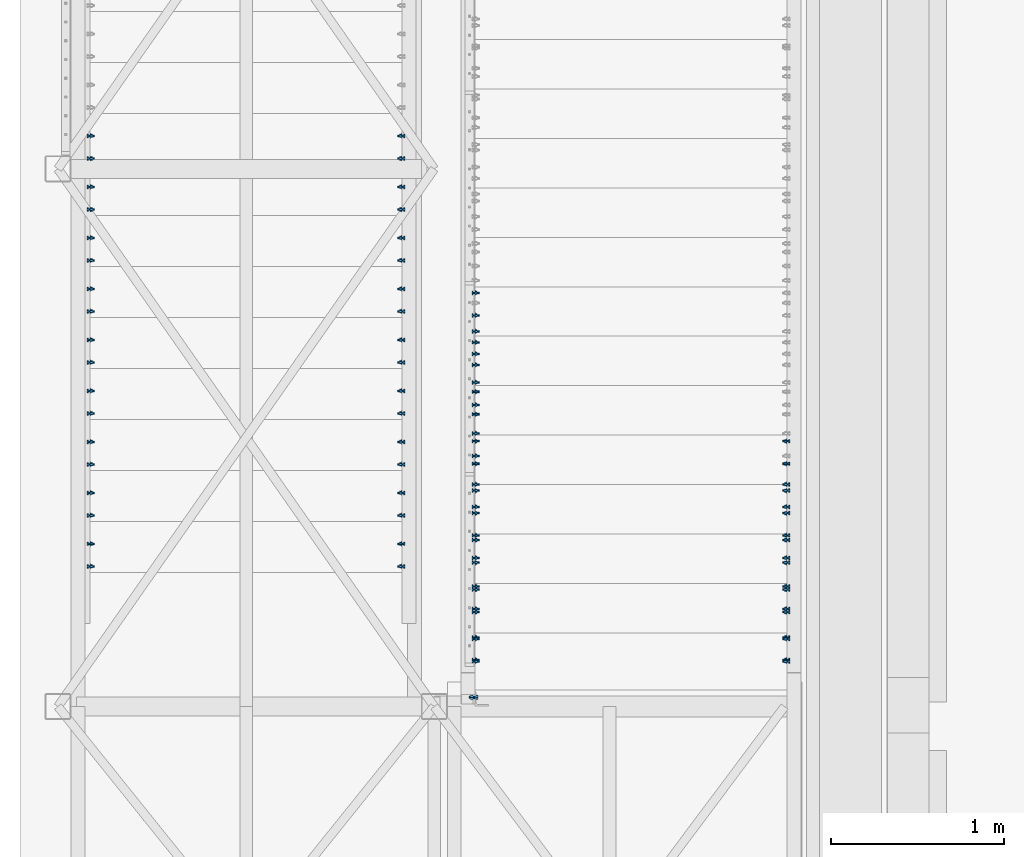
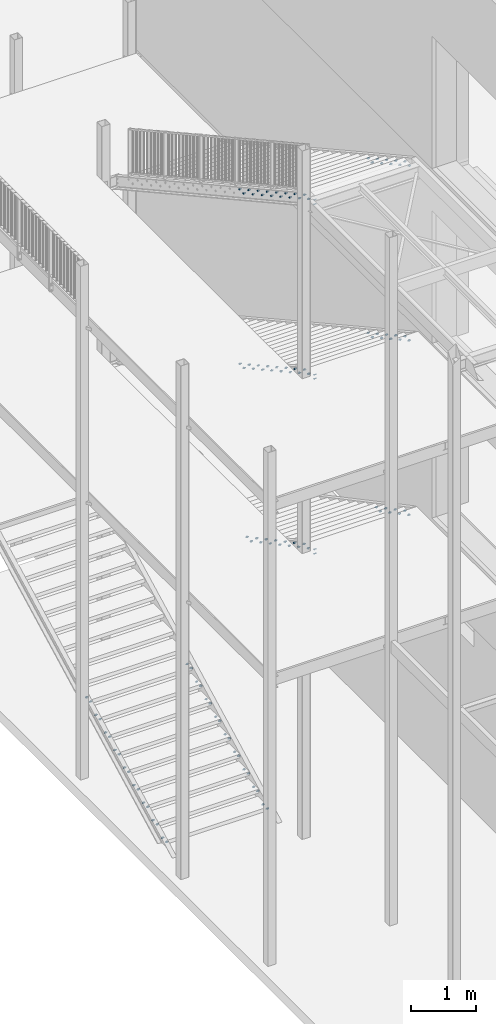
# One storey, part 69 of 78: 58 mechanical fasteners, 8 elements without a shape of their own.
"""IFC2X3 building model written with IfcOpenShell, lengths in millimetres."""

from ifc_helpers import new_model, si_unit, frame, origin_with_axes, origin_2d_with_axis, place, context, subcontext, project, spatial, polyline, circle, outline, extrude, source, transform, mapped, material, type_object, element, aggregate, save


model = new_model("IFC2X3")

# Units and contexts
model_context = context("Model", 3, precision=1e-05, world=origin_with_axes())
body_context = subcontext(model_context, "Body", "Model", "MODEL_VIEW")
ifc_project = project(units=[si_unit("LENGTHUNIT", "METRE", prefix="MILLI"), si_unit("AREAUNIT", "SQUARE_METRE"), si_unit("VOLUMEUNIT", "CUBIC_METRE"), si_unit("MASSUNIT", "GRAM", prefix="KILO"), si_unit("TIMEUNIT", "SECOND"), si_unit("PLANEANGLEUNIT", "RADIAN"), si_unit("SOLIDANGLEUNIT", "STERADIAN"), si_unit("THERMODYNAMICTEMPERATUREUNIT", "DEGREE_CELSIUS"), si_unit("LUMINOUSINTENSITYUNIT", "LUMEN")], contexts=[model_context])

# Site, building, storey
site_placement = place(None, origin_with_axes())
site = spatial("IfcSite", under=ifc_project, at=site_placement, Name="Site", CompositionType="ELEMENT")
building_placement = place(site_placement, origin_with_axes())
building = spatial("IfcBuilding", under=site, at=building_placement, Name="Undefined", CompositionType="ELEMENT")
storey_placement = place(building_placement, origin_with_axes())
storey = spatial("IfcBuildingStorey", under=building, at=storey_placement, Name="Undefined", CompositionType="ELEMENT", Elevation=0.0)

# Assembly, mechanical fastener
assembly_1_placement = place(storey_placement, origin_with_axes())
assembly_1 = element("IfcElementAssembly", 1, at=assembly_1_placement, inside=storey, AssemblyPlace="NOTDEFINED", PredefinedType="RIGID_FRAME")
ifc_material_1 = material(Name="8.8")
mechanical_fastener_type = type_object("IfcMechanicalFastenerType", Name="Bolt assembly")
shared_shape_1 = source(origin_with_axes(), body_context, "Body", "SweptSolid", [
    extrude(circle(Radius=9.0, at=origin_2d_with_axis()), frame((0.0, -7.89999999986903, 0.0), z_axis=(0.0, 1.0, 0.0), x_axis=(1.0, 0.0, 0.0)), (0.0, 0.0, 1.0), 8.0),
    extrude(circle(Radius=9.0, at=origin_2d_with_axis()), frame((0.0, -0.0999999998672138, 0.0), z_axis=(0.0, 1.0, 0.0), x_axis=(1.0, 0.0, 0.0)), (0.0, 0.0, 1.0), 9.1),
    extrude(outline(polyline([(13.85640646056, 0.0), (6.92820323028, 12.0000000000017), (-6.92820323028, 12.0000000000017), (-13.85640646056, 0.0), (-6.92820323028, -12.0000000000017), (6.92820323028, -12.0000000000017), (13.85640646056, 0.0)])), frame((0.0, -17.999999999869, 0.0), z_axis=(0.0, 1.0, 0.0), x_axis=(1.0, 0.0, 0.0)), (0.0, 0.0, 1.0), 10.0),
    extrude(circle(Radius=8.0, at=origin_2d_with_axis()), frame((0.0, -7.99999999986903, 0.0), z_axis=(0.0, 1.0, 0.0), x_axis=(1.0, 0.0, 0.0)), (0.0, 0.0, 1.0), 40.0),
    extrude(outline(polyline([(13.85640646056, 0.0), (6.92820323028, 12.0000000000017), (-6.92820323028, 12.0000000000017), (-13.85640646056, 0.0), (-6.92820323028, -12.0000000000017), (6.92820323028, -12.0000000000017), (13.85640646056, 0.0)])), frame((0.0, 9.0, 0.0), z_axis=(0.0, 1.0, 0.0), x_axis=(1.0, 0.0, 0.0)), (0.0, 0.0, 1.0), 14.8),
])
mechanical_fastener_1_placement = place(assembly_1_placement, frame((-32982.8600000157, 3911.0999986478, 153300.040107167), z_axis=(0.0, 1.0, 0.0), x_axis=(0.0, 0.0, -1.0)))
mechanical_fastener_1 = element("IfcMechanicalFastener", 2, at=mechanical_fastener_1_placement, type_object=mechanical_fastener_type, material=ifc_material_1, Name="Bolt assembly", NominalDiameter=16.0, NominalLength=40.0, context=body_context, shape_type="MappedRepresentation", body=[
    mapped(shared_shape_1, transform((0.0, 0.0, 50.0))),
    mapped(shared_shape_1, transform((80.0, 0.0, 50.0))),
])

assembly_2_placement = place(storey_placement, origin_with_axes())
assembly_2 = element("IfcElementAssembly", 3, at=assembly_2_placement, inside=storey, AssemblyPlace="NOTDEFINED", PredefinedType="RIGID_FRAME")
mechanical_fastener_2_placement = place(assembly_2_placement, frame((-32982.8600000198, 3911.0999999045, 156600.040000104), z_axis=(0.0, 1.0, 0.0), x_axis=(0.0, 0.0, -1.0)))
mechanical_fastener_2 = element("IfcMechanicalFastener", 4, at=mechanical_fastener_2_placement, type_object=mechanical_fastener_type, material=ifc_material_1, Name="Bolt assembly", NominalDiameter=16.0, NominalLength=40.0, context=body_context, shape_type="MappedRepresentation", body=[
    mapped(shared_shape_1, transform((0.0, 0.0, 50.0))),
    mapped(shared_shape_1, transform((80.0, 0.0, 50.0))),
])

assembly_3_placement = place(storey_placement, origin_with_axes())
assembly_3 = element("IfcElementAssembly", 5, at=assembly_3_placement, inside=storey, AssemblyPlace="NOTDEFINED", PredefinedType="RIGID_FRAME")
mechanical_fastener_3_placement = place(assembly_3_placement, frame((-32982.8600000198, 3911.09999990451, 159900.040000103), z_axis=(0.0, 1.0, 0.0), x_axis=(0.0, 0.0, -1.0)))
mechanical_fastener_3 = element("IfcMechanicalFastener", 6, at=mechanical_fastener_3_placement, type_object=mechanical_fastener_type, material=ifc_material_1, Name="Bolt assembly", NominalDiameter=16.0, NominalLength=40.0, context=body_context, shape_type="MappedRepresentation", body=[
    mapped(shared_shape_1, transform((0.0, 0.0, 50.0))),
    mapped(shared_shape_1, transform((80.0, 0.0, 50.0))),
])

assembly_4_placement = place(storey_placement, origin_with_axes())
assembly_4 = element("IfcElementAssembly", 7, at=assembly_4_placement, inside=storey, AssemblyPlace="NOTDEFINED", PredefinedType="RIGID_FRAME")
ifc_material_2 = material(Name="6.8")
shared_shape_2 = source(origin_with_axes(), body_context, "Body", "SweptSolid", [
    extrude(circle(Radius=6.0, at=origin_2d_with_axis()), frame((0.0, -9.00000002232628, 0.0), z_axis=(0.0, 1.0, 0.0), x_axis=(1.0, 0.0, 0.0)), (0.0, 0.0, 1.0), 9.1),
    extrude(outline(polyline([(10.96965511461, 0.0), (5.484827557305, 9.50000000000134), (-5.484827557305, 9.50000000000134), (-10.96965511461, 0.0), (-5.484827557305, -9.50000000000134), (5.484827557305, -9.50000000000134), (10.96965511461, 0.0)])), frame((0.0, -17.0000000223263, 0.0), z_axis=(0.0, 1.0, 0.0), x_axis=(1.0, 0.0, 0.0)), (0.0, 0.0, 1.0), 8.0),
    extrude(circle(Radius=6.0, at=origin_2d_with_axis()), frame((0.0, -9.00000002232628, 0.0), z_axis=(0.0, 1.0, 0.0), x_axis=(1.0, 0.0, 0.0)), (0.0, 0.0, 1.0), 35.0),
    extrude(circle(Radius=15.5, at=origin_2d_with_axis()), frame((0.0, 0.0, 0.0), z_axis=(0.0, 1.0, 0.0), x_axis=(1.0, 0.0, 0.0)), (0.0, 0.0, 1.0), 3.2),
    extrude(outline(polyline([(10.39230484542, 0.0), (5.19615242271, 9.00000000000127), (-5.19615242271, 9.00000000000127), (-10.39230484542, 0.0), (-5.19615242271, -9.00000000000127), (5.19615242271, -9.00000000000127), (10.39230484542, 0.0)])), frame((0.0, 3.20000004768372, 0.0), z_axis=(0.0, 1.0, 0.0), x_axis=(1.0, 0.0, 0.0)), (0.0, 0.0, 1.0), 10.8),
])
mechanical_fastener_4_placement = place(assembly_4_placement, frame((-31182.859999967, 4297.99999995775, 156487.540000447), z_axis=(0.0, 0.0, -1.0), x_axis=(0.0, -1.0, 0.0)))
mechanical_fastener_4 = element("IfcMechanicalFastener", 8, at=mechanical_fastener_4_placement, type_object=mechanical_fastener_type, material=ifc_material_2, Name="Bolt assembly", NominalDiameter=12.0, NominalLength=35.0, context=body_context, shape_type="MappedRepresentation", body=[
    mapped(shared_shape_2, transform((0.0, 0.0, 0.0))),
    mapped(shared_shape_2, transform((130.0, 0.0, 0.0))),
])

# Mechanical fastener
mechanical_fastener_5_placement = place(assembly_2_placement, frame((-32982.859999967, 4297.99999995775, 156487.540000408), z_axis=(0.0, 0.0, 1.0), x_axis=(0.0, -1.0, 0.0)))
mechanical_fastener_5 = element("IfcMechanicalFastener", 9, at=mechanical_fastener_5_placement, type_object=mechanical_fastener_type, material=ifc_material_2, Name="Bolt assembly", NominalDiameter=12.0, NominalLength=35.0, context=body_context, shape_type="MappedRepresentation", body=[
    mapped(shared_shape_2, transform((0.0, 0.0, 0.0))),
    mapped(shared_shape_2, transform((130.0, 0.0, 0.0))),
])

mechanical_fastener_6_placement = place(assembly_4_placement, frame((-31182.8599999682, 4582.99999995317, 156330.040000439), z_axis=(0.0, 0.0, -1.0), x_axis=(0.0, -1.0, 0.0)))
mechanical_fastener_6 = element("IfcMechanicalFastener", 10, at=mechanical_fastener_6_placement, type_object=mechanical_fastener_type, material=ifc_material_2, Name="Bolt assembly", NominalDiameter=12.0, NominalLength=35.0, context=body_context, shape_type="MappedRepresentation", body=[
    mapped(shared_shape_2, transform((0.0, 0.0, 0.0))),
    mapped(shared_shape_2, transform((130.0, 0.0, 0.0))),
])

mechanical_fastener_7_placement = place(assembly_2_placement, frame((-32982.8599999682, 4582.99999995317, 156330.0400004), z_axis=(0.0, 0.0, 1.0), x_axis=(0.0, -1.0, 0.0)))
mechanical_fastener_7 = element("IfcMechanicalFastener", 11, at=mechanical_fastener_7_placement, type_object=mechanical_fastener_type, material=ifc_material_2, Name="Bolt assembly", NominalDiameter=12.0, NominalLength=35.0, context=body_context, shape_type="MappedRepresentation", body=[
    mapped(shared_shape_2, transform((0.0, 0.0, 0.0))),
    mapped(shared_shape_2, transform((130.0, 0.0, 0.0))),
])

mechanical_fastener_8_placement = place(assembly_4_placement, frame((-31182.8599999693, 4867.99999994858, 156172.540000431), z_axis=(0.0, 0.0, -1.0), x_axis=(0.0, -1.0, 0.0)))
mechanical_fastener_8 = element("IfcMechanicalFastener", 12, at=mechanical_fastener_8_placement, type_object=mechanical_fastener_type, material=ifc_material_2, Name="Bolt assembly", NominalDiameter=12.0, NominalLength=35.0, context=body_context, shape_type="MappedRepresentation", body=[
    mapped(shared_shape_2, transform((0.0, 0.0, 0.0))),
    mapped(shared_shape_2, transform((130.0, 0.0, 0.0))),
])

mechanical_fastener_9_placement = place(assembly_2_placement, frame((-32982.8599999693, 4867.99999994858, 156172.540000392), z_axis=(0.0, 0.0, 1.0), x_axis=(0.0, -1.0, 0.0)))
mechanical_fastener_9 = element("IfcMechanicalFastener", 13, at=mechanical_fastener_9_placement, type_object=mechanical_fastener_type, material=ifc_material_2, Name="Bolt assembly", NominalDiameter=12.0, NominalLength=35.0, context=body_context, shape_type="MappedRepresentation", body=[
    mapped(shared_shape_2, transform((0.0, 0.0, 0.0))),
    mapped(shared_shape_2, transform((130.0, 0.0, 0.0))),
])

mechanical_fastener_10_placement = place(assembly_4_placement, frame((-31182.8599999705, 5152.999999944, 156015.040000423), z_axis=(0.0, 0.0, -1.0), x_axis=(0.0, -1.0, 0.0)))
mechanical_fastener_10 = element("IfcMechanicalFastener", 14, at=mechanical_fastener_10_placement, type_object=mechanical_fastener_type, material=ifc_material_2, Name="Bolt assembly", NominalDiameter=12.0, NominalLength=35.0, context=body_context, shape_type="MappedRepresentation", body=[
    mapped(shared_shape_2, transform((0.0, 0.0, 0.0))),
    mapped(shared_shape_2, transform((130.0, 0.0, 0.0))),
])

mechanical_fastener_11_placement = place(assembly_2_placement, frame((-32982.8599999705, 5152.999999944, 156015.040000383), z_axis=(0.0, 0.0, 1.0), x_axis=(0.0, -1.0, 0.0)))
mechanical_fastener_11 = element("IfcMechanicalFastener", 15, at=mechanical_fastener_11_placement, type_object=mechanical_fastener_type, material=ifc_material_2, Name="Bolt assembly", NominalDiameter=12.0, NominalLength=35.0, context=body_context, shape_type="MappedRepresentation", body=[
    mapped(shared_shape_2, transform((0.0, 0.0, 0.0))),
    mapped(shared_shape_2, transform((130.0, 0.0, 0.0))),
])

mechanical_fastener_12_placement = place(assembly_4_placement, frame((-31182.8599999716, 5437.99999993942, 155857.540000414), z_axis=(0.0, 0.0, -1.0), x_axis=(0.0, -1.0, 0.0)))
mechanical_fastener_12 = element("IfcMechanicalFastener", 16, at=mechanical_fastener_12_placement, type_object=mechanical_fastener_type, material=ifc_material_2, Name="Bolt assembly", NominalDiameter=12.0, NominalLength=35.0, context=body_context, shape_type="MappedRepresentation", body=[
    mapped(shared_shape_2, transform((0.0, 0.0, 0.0))),
    mapped(shared_shape_2, transform((130.0, 0.0, 0.0))),
])

aggregate(assembly_4, [mechanical_fastener_4, mechanical_fastener_6, mechanical_fastener_8, mechanical_fastener_10, mechanical_fastener_12])

mechanical_fastener_13_placement = place(assembly_2_placement, frame((-32982.8599999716, 5437.99999993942, 155857.540000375), z_axis=(0.0, 0.0, 1.0), x_axis=(0.0, -1.0, 0.0)))
mechanical_fastener_13 = element("IfcMechanicalFastener", 17, at=mechanical_fastener_13_placement, type_object=mechanical_fastener_type, material=ifc_material_2, Name="Bolt assembly", NominalDiameter=12.0, NominalLength=35.0, context=body_context, shape_type="MappedRepresentation", body=[
    mapped(shared_shape_2, transform((0.0, 0.0, 0.0))),
    mapped(shared_shape_2, transform((130.0, 0.0, 0.0))),
])

mechanical_fastener_14_placement = place(assembly_2_placement, frame((-32982.8599999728, 5722.99999993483, 155700.040000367), z_axis=(0.0, 0.0, 1.0), x_axis=(0.0, -1.0, 0.0)))
mechanical_fastener_14 = element("IfcMechanicalFastener", 18, at=mechanical_fastener_14_placement, type_object=mechanical_fastener_type, material=ifc_material_2, Name="Bolt assembly", NominalDiameter=12.0, NominalLength=35.0, context=body_context, shape_type="MappedRepresentation", body=[
    mapped(shared_shape_2, transform((0.0, 0.0, 0.0))),
    mapped(shared_shape_2, transform((130.0, 0.0, 0.0))),
])

mechanical_fastener_15_placement = place(assembly_2_placement, frame((-32982.8599999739, 6007.99999993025, 155542.540000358), z_axis=(0.0, 0.0, 1.0), x_axis=(0.0, -1.0, 0.0)))
mechanical_fastener_15 = element("IfcMechanicalFastener", 19, at=mechanical_fastener_15_placement, type_object=mechanical_fastener_type, material=ifc_material_2, Name="Bolt assembly", NominalDiameter=12.0, NominalLength=35.0, context=body_context, shape_type="MappedRepresentation", body=[
    mapped(shared_shape_2, transform((0.0, 0.0, 0.0))),
    mapped(shared_shape_2, transform((130.0, 0.0, 0.0))),
])

mechanical_fastener_16_placement = place(assembly_2_placement, frame((-32982.8599999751, 6292.99999992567, 155385.04000035), z_axis=(0.0, 0.0, 1.0), x_axis=(0.0, -1.0, 0.0)))
mechanical_fastener_16 = element("IfcMechanicalFastener", 20, at=mechanical_fastener_16_placement, type_object=mechanical_fastener_type, material=ifc_material_2, Name="Bolt assembly", NominalDiameter=12.0, NominalLength=35.0, context=body_context, shape_type="MappedRepresentation", body=[
    mapped(shared_shape_2, transform((0.0, 0.0, 0.0))),
    mapped(shared_shape_2, transform((130.0, 0.0, 0.0))),
])

aggregate(assembly_2, [mechanical_fastener_2, mechanical_fastener_5, mechanical_fastener_7, mechanical_fastener_9, mechanical_fastener_11, mechanical_fastener_13, mechanical_fastener_14, mechanical_fastener_15, mechanical_fastener_16])

# Assembly, mechanical fastener
assembly_5_placement = place(storey_placement, origin_with_axes())
assembly_5 = element("IfcElementAssembly", 21, at=assembly_5_placement, inside=storey, AssemblyPlace="NOTDEFINED", PredefinedType="RIGID_FRAME")
mechanical_fastener_17_placement = place(assembly_5_placement, frame((-31182.859999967, 4297.99999995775, 159787.540000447), z_axis=(0.0, 0.0, -1.0), x_axis=(0.0, -1.0, 0.0)))
mechanical_fastener_17 = element("IfcMechanicalFastener", 22, at=mechanical_fastener_17_placement, type_object=mechanical_fastener_type, material=ifc_material_2, Name="Bolt assembly", NominalDiameter=12.0, NominalLength=35.0, context=body_context, shape_type="MappedRepresentation", body=[
    mapped(shared_shape_2, transform((0.0, 0.0, 0.0))),
    mapped(shared_shape_2, transform((130.0, 0.0, 0.0))),
])

# Mechanical fastener
mechanical_fastener_18_placement = place(assembly_3_placement, frame((-32982.859999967, 4297.99999995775, 159787.540000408), z_axis=(0.0, 0.0, 1.0), x_axis=(0.0, -1.0, 0.0)))
mechanical_fastener_18 = element("IfcMechanicalFastener", 23, at=mechanical_fastener_18_placement, type_object=mechanical_fastener_type, material=ifc_material_2, Name="Bolt assembly", NominalDiameter=12.0, NominalLength=35.0, context=body_context, shape_type="MappedRepresentation", body=[
    mapped(shared_shape_2, transform((0.0, 0.0, 0.0))),
    mapped(shared_shape_2, transform((130.0, 0.0, 0.0))),
])

mechanical_fastener_19_placement = place(assembly_5_placement, frame((-31182.8599999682, 4582.99999995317, 159630.040000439), z_axis=(0.0, 0.0, -1.0), x_axis=(0.0, -1.0, 0.0)))
mechanical_fastener_19 = element("IfcMechanicalFastener", 24, at=mechanical_fastener_19_placement, type_object=mechanical_fastener_type, material=ifc_material_2, Name="Bolt assembly", NominalDiameter=12.0, NominalLength=35.0, context=body_context, shape_type="MappedRepresentation", body=[
    mapped(shared_shape_2, transform((0.0, 0.0, 0.0))),
    mapped(shared_shape_2, transform((130.0, 0.0, 0.0))),
])

mechanical_fastener_20_placement = place(assembly_3_placement, frame((-32982.8599999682, 4582.99999995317, 159630.0400004), z_axis=(0.0, 0.0, 1.0), x_axis=(0.0, -1.0, 0.0)))
mechanical_fastener_20 = element("IfcMechanicalFastener", 25, at=mechanical_fastener_20_placement, type_object=mechanical_fastener_type, material=ifc_material_2, Name="Bolt assembly", NominalDiameter=12.0, NominalLength=35.0, context=body_context, shape_type="MappedRepresentation", body=[
    mapped(shared_shape_2, transform((0.0, 0.0, 0.0))),
    mapped(shared_shape_2, transform((130.0, 0.0, 0.0))),
])

mechanical_fastener_21_placement = place(assembly_5_placement, frame((-31182.8599999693, 4867.99999994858, 159472.540000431), z_axis=(0.0, 0.0, -1.0), x_axis=(0.0, -1.0, 0.0)))
mechanical_fastener_21 = element("IfcMechanicalFastener", 26, at=mechanical_fastener_21_placement, type_object=mechanical_fastener_type, material=ifc_material_2, Name="Bolt assembly", NominalDiameter=12.0, NominalLength=35.0, context=body_context, shape_type="MappedRepresentation", body=[
    mapped(shared_shape_2, transform((0.0, 0.0, 0.0))),
    mapped(shared_shape_2, transform((130.0, 0.0, 0.0))),
])

mechanical_fastener_22_placement = place(assembly_3_placement, frame((-32982.8599999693, 4867.99999994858, 159472.540000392), z_axis=(0.0, 0.0, 1.0), x_axis=(0.0, -1.0, 0.0)))
mechanical_fastener_22 = element("IfcMechanicalFastener", 27, at=mechanical_fastener_22_placement, type_object=mechanical_fastener_type, material=ifc_material_2, Name="Bolt assembly", NominalDiameter=12.0, NominalLength=35.0, context=body_context, shape_type="MappedRepresentation", body=[
    mapped(shared_shape_2, transform((0.0, 0.0, 0.0))),
    mapped(shared_shape_2, transform((130.0, 0.0, 0.0))),
])

mechanical_fastener_23_placement = place(assembly_5_placement, frame((-31182.8599999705, 5152.999999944, 159315.040000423), z_axis=(0.0, 0.0, -1.0), x_axis=(0.0, -1.0, 0.0)))
mechanical_fastener_23 = element("IfcMechanicalFastener", 28, at=mechanical_fastener_23_placement, type_object=mechanical_fastener_type, material=ifc_material_2, Name="Bolt assembly", NominalDiameter=12.0, NominalLength=35.0, context=body_context, shape_type="MappedRepresentation", body=[
    mapped(shared_shape_2, transform((0.0, 0.0, 0.0))),
    mapped(shared_shape_2, transform((130.0, 0.0, 0.0))),
])

mechanical_fastener_24_placement = place(assembly_3_placement, frame((-32982.8599999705, 5152.999999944, 159315.040000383), z_axis=(0.0, 0.0, 1.0), x_axis=(0.0, -1.0, 0.0)))
mechanical_fastener_24 = element("IfcMechanicalFastener", 29, at=mechanical_fastener_24_placement, type_object=mechanical_fastener_type, material=ifc_material_2, Name="Bolt assembly", NominalDiameter=12.0, NominalLength=35.0, context=body_context, shape_type="MappedRepresentation", body=[
    mapped(shared_shape_2, transform((0.0, 0.0, 0.0))),
    mapped(shared_shape_2, transform((130.0, 0.0, 0.0))),
])

mechanical_fastener_25_placement = place(assembly_5_placement, frame((-31182.8599999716, 5437.99999993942, 159157.540000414), z_axis=(0.0, 0.0, -1.0), x_axis=(0.0, -1.0, 0.0)))
mechanical_fastener_25 = element("IfcMechanicalFastener", 30, at=mechanical_fastener_25_placement, type_object=mechanical_fastener_type, material=ifc_material_2, Name="Bolt assembly", NominalDiameter=12.0, NominalLength=35.0, context=body_context, shape_type="MappedRepresentation", body=[
    mapped(shared_shape_2, transform((0.0, 0.0, 0.0))),
    mapped(shared_shape_2, transform((130.0, 0.0, 0.0))),
])

aggregate(assembly_5, [mechanical_fastener_17, mechanical_fastener_19, mechanical_fastener_21, mechanical_fastener_23, mechanical_fastener_25])

mechanical_fastener_26_placement = place(assembly_3_placement, frame((-32982.8599999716, 5437.99999993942, 159157.540000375), z_axis=(0.0, 0.0, 1.0), x_axis=(0.0, -1.0, 0.0)))
mechanical_fastener_26 = element("IfcMechanicalFastener", 31, at=mechanical_fastener_26_placement, type_object=mechanical_fastener_type, material=ifc_material_2, Name="Bolt assembly", NominalDiameter=12.0, NominalLength=35.0, context=body_context, shape_type="MappedRepresentation", body=[
    mapped(shared_shape_2, transform((0.0, 0.0, 0.0))),
    mapped(shared_shape_2, transform((130.0, 0.0, 0.0))),
])

mechanical_fastener_27_placement = place(assembly_3_placement, frame((-32982.8599999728, 5722.99999993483, 159000.040000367), z_axis=(0.0, 0.0, 1.0), x_axis=(0.0, -1.0, 0.0)))
mechanical_fastener_27 = element("IfcMechanicalFastener", 32, at=mechanical_fastener_27_placement, type_object=mechanical_fastener_type, material=ifc_material_2, Name="Bolt assembly", NominalDiameter=12.0, NominalLength=35.0, context=body_context, shape_type="MappedRepresentation", body=[
    mapped(shared_shape_2, transform((0.0, 0.0, 0.0))),
    mapped(shared_shape_2, transform((130.0, 0.0, 0.0))),
])

mechanical_fastener_28_placement = place(assembly_3_placement, frame((-32982.8599999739, 6007.99999993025, 158842.540000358), z_axis=(0.0, 0.0, 1.0), x_axis=(0.0, -1.0, 0.0)))
mechanical_fastener_28 = element("IfcMechanicalFastener", 33, at=mechanical_fastener_28_placement, type_object=mechanical_fastener_type, material=ifc_material_2, Name="Bolt assembly", NominalDiameter=12.0, NominalLength=35.0, context=body_context, shape_type="MappedRepresentation", body=[
    mapped(shared_shape_2, transform((0.0, 0.0, 0.0))),
    mapped(shared_shape_2, transform((130.0, 0.0, 0.0))),
])

mechanical_fastener_29_placement = place(assembly_3_placement, frame((-32982.8599999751, 6292.99999992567, 158685.04000035), z_axis=(0.0, 0.0, 1.0), x_axis=(0.0, -1.0, 0.0)))
mechanical_fastener_29 = element("IfcMechanicalFastener", 34, at=mechanical_fastener_29_placement, type_object=mechanical_fastener_type, material=ifc_material_2, Name="Bolt assembly", NominalDiameter=12.0, NominalLength=35.0, context=body_context, shape_type="MappedRepresentation", body=[
    mapped(shared_shape_2, transform((0.0, 0.0, 0.0))),
    mapped(shared_shape_2, transform((130.0, 0.0, 0.0))),
])

aggregate(assembly_3, [mechanical_fastener_3, mechanical_fastener_18, mechanical_fastener_20, mechanical_fastener_22, mechanical_fastener_24, mechanical_fastener_26, mechanical_fastener_27, mechanical_fastener_28, mechanical_fastener_29])

# Assembly, mechanical fastener
assembly_6_placement = place(storey_placement, origin_with_axes())
assembly_6 = element("IfcElementAssembly", 35, at=assembly_6_placement, inside=storey, AssemblyPlace="NOTDEFINED", PredefinedType="RIGID_FRAME")
mechanical_fastener_30_placement = place(assembly_6_placement, frame((-35201.4300000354, 7068.00000000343, 149315.039999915), z_axis=(0.0, 0.0, -1.0), x_axis=(0.0, 1.0, 0.0)))
mechanical_fastener_30 = element("IfcMechanicalFastener", 36, at=mechanical_fastener_30_placement, type_object=mechanical_fastener_type, material=ifc_material_2, Name="Bolt assembly", NominalDiameter=12.0, NominalLength=35.0, context=body_context, shape_type="MappedRepresentation", body=[
    mapped(shared_shape_2, transform((0.0, 0.0, 0.0))),
    mapped(shared_shape_2, transform((130.0, 0.0, 0.0))),
])

assembly_7_placement = place(storey_placement, origin_with_axes())
assembly_7 = element("IfcElementAssembly", 37, at=assembly_7_placement, inside=storey, AssemblyPlace="NOTDEFINED", PredefinedType="RIGID_FRAME")
mechanical_fastener_31_placement = place(assembly_7_placement, frame((-33401.4300000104, 7068.00000000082, 149315.040000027), z_axis=(0.0, 0.0, 1.0), x_axis=(0.0, 1.0, 0.0)))
mechanical_fastener_31 = element("IfcMechanicalFastener", 38, at=mechanical_fastener_31_placement, type_object=mechanical_fastener_type, material=ifc_material_2, Name="Bolt assembly", NominalDiameter=12.0, NominalLength=35.0, context=body_context, shape_type="MappedRepresentation", body=[
    mapped(shared_shape_2, transform((0.0, 0.0, 0.0))),
    mapped(shared_shape_2, transform((130.0, 0.0, 0.0))),
])

# Mechanical fastener
mechanical_fastener_32_placement = place(assembly_6_placement, frame((-35201.4300000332, 6774.00000000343, 149162.039999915), z_axis=(0.0, 0.0, -1.0), x_axis=(0.0, 1.0, 0.0)))
mechanical_fastener_32 = element("IfcMechanicalFastener", 39, at=mechanical_fastener_32_placement, type_object=mechanical_fastener_type, material=ifc_material_2, Name="Bolt assembly", NominalDiameter=12.0, NominalLength=35.0, context=body_context, shape_type="MappedRepresentation", body=[
    mapped(shared_shape_2, transform((0.0, 0.0, 0.0))),
    mapped(shared_shape_2, transform((130.0, 0.0, 0.0))),
])

mechanical_fastener_33_placement = place(assembly_7_placement, frame((-33401.4300000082, 6774.00000000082, 149162.040000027), z_axis=(0.0, 0.0, 1.0), x_axis=(0.0, 1.0, 0.0)))
mechanical_fastener_33 = element("IfcMechanicalFastener", 40, at=mechanical_fastener_33_placement, type_object=mechanical_fastener_type, material=ifc_material_2, Name="Bolt assembly", NominalDiameter=12.0, NominalLength=35.0, context=body_context, shape_type="MappedRepresentation", body=[
    mapped(shared_shape_2, transform((0.0, 0.0, 0.0))),
    mapped(shared_shape_2, transform((130.0, 0.0, 0.0))),
])

mechanical_fastener_34_placement = place(assembly_6_placement, frame((-35201.4300000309, 6480.00000000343, 149009.039999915), z_axis=(0.0, 0.0, -1.0), x_axis=(0.0, 1.0, 0.0)))
mechanical_fastener_34 = element("IfcMechanicalFastener", 41, at=mechanical_fastener_34_placement, type_object=mechanical_fastener_type, material=ifc_material_2, Name="Bolt assembly", NominalDiameter=12.0, NominalLength=35.0, context=body_context, shape_type="MappedRepresentation", body=[
    mapped(shared_shape_2, transform((0.0, 0.0, 0.0))),
    mapped(shared_shape_2, transform((130.0, 0.0, 0.0))),
])

mechanical_fastener_35_placement = place(assembly_7_placement, frame((-33401.430000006, 6480.00000000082, 149009.040000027), z_axis=(0.0, 0.0, 1.0), x_axis=(0.0, 1.0, 0.0)))
mechanical_fastener_35 = element("IfcMechanicalFastener", 42, at=mechanical_fastener_35_placement, type_object=mechanical_fastener_type, material=ifc_material_2, Name="Bolt assembly", NominalDiameter=12.0, NominalLength=35.0, context=body_context, shape_type="MappedRepresentation", body=[
    mapped(shared_shape_2, transform((0.0, 0.0, 0.0))),
    mapped(shared_shape_2, transform((130.0, 0.0, 0.0))),
])

mechanical_fastener_36_placement = place(assembly_6_placement, frame((-35201.4300000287, 6186.00000000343, 148856.039999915), z_axis=(0.0, 0.0, -1.0), x_axis=(0.0, 1.0, 0.0)))
mechanical_fastener_36 = element("IfcMechanicalFastener", 43, at=mechanical_fastener_36_placement, type_object=mechanical_fastener_type, material=ifc_material_2, Name="Bolt assembly", NominalDiameter=12.0, NominalLength=35.0, context=body_context, shape_type="MappedRepresentation", body=[
    mapped(shared_shape_2, transform((0.0, 0.0, 0.0))),
    mapped(shared_shape_2, transform((130.0, 0.0, 0.0))),
])

mechanical_fastener_37_placement = place(assembly_7_placement, frame((-33401.4300000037, 6186.00000000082, 148856.040000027), z_axis=(0.0, 0.0, 1.0), x_axis=(0.0, 1.0, 0.0)))
mechanical_fastener_37 = element("IfcMechanicalFastener", 44, at=mechanical_fastener_37_placement, type_object=mechanical_fastener_type, material=ifc_material_2, Name="Bolt assembly", NominalDiameter=12.0, NominalLength=35.0, context=body_context, shape_type="MappedRepresentation", body=[
    mapped(shared_shape_2, transform((0.0, 0.0, 0.0))),
    mapped(shared_shape_2, transform((130.0, 0.0, 0.0))),
])

mechanical_fastener_38_placement = place(assembly_6_placement, frame((-35201.4300000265, 5892.00000000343, 148703.039999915), z_axis=(0.0, 0.0, -1.0), x_axis=(0.0, 1.0, 0.0)))
mechanical_fastener_38 = element("IfcMechanicalFastener", 45, at=mechanical_fastener_38_placement, type_object=mechanical_fastener_type, material=ifc_material_2, Name="Bolt assembly", NominalDiameter=12.0, NominalLength=35.0, context=body_context, shape_type="MappedRepresentation", body=[
    mapped(shared_shape_2, transform((0.0, 0.0, 0.0))),
    mapped(shared_shape_2, transform((130.0, 0.0, 0.0))),
])

mechanical_fastener_39_placement = place(assembly_7_placement, frame((-33401.4300000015, 5892.00000000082, 148703.040000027), z_axis=(0.0, 0.0, 1.0), x_axis=(0.0, 1.0, 0.0)))
mechanical_fastener_39 = element("IfcMechanicalFastener", 46, at=mechanical_fastener_39_placement, type_object=mechanical_fastener_type, material=ifc_material_2, Name="Bolt assembly", NominalDiameter=12.0, NominalLength=35.0, context=body_context, shape_type="MappedRepresentation", body=[
    mapped(shared_shape_2, transform((0.0, 0.0, 0.0))),
    mapped(shared_shape_2, transform((130.0, 0.0, 0.0))),
])

mechanical_fastener_40_placement = place(assembly_6_placement, frame((-35201.4300000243, 5598.00000000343, 148550.039999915), z_axis=(0.0, 0.0, -1.0), x_axis=(0.0, 1.0, 0.0)))
mechanical_fastener_40 = element("IfcMechanicalFastener", 47, at=mechanical_fastener_40_placement, type_object=mechanical_fastener_type, material=ifc_material_2, Name="Bolt assembly", NominalDiameter=12.0, NominalLength=35.0, context=body_context, shape_type="MappedRepresentation", body=[
    mapped(shared_shape_2, transform((0.0, 0.0, 0.0))),
    mapped(shared_shape_2, transform((130.0, 0.0, 0.0))),
])

mechanical_fastener_41_placement = place(assembly_7_placement, frame((-33401.4299999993, 5598.00000000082, 148550.040000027), z_axis=(0.0, 0.0, 1.0), x_axis=(0.0, 1.0, 0.0)))
mechanical_fastener_41 = element("IfcMechanicalFastener", 48, at=mechanical_fastener_41_placement, type_object=mechanical_fastener_type, material=ifc_material_2, Name="Bolt assembly", NominalDiameter=12.0, NominalLength=35.0, context=body_context, shape_type="MappedRepresentation", body=[
    mapped(shared_shape_2, transform((0.0, 0.0, 0.0))),
    mapped(shared_shape_2, transform((130.0, 0.0, 0.0))),
])

mechanical_fastener_42_placement = place(assembly_6_placement, frame((-35201.430000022, 5304.00000000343, 148397.039999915), z_axis=(0.0, 0.0, -1.0), x_axis=(0.0, 1.0, 0.0)))
mechanical_fastener_42 = element("IfcMechanicalFastener", 49, at=mechanical_fastener_42_placement, type_object=mechanical_fastener_type, material=ifc_material_2, Name="Bolt assembly", NominalDiameter=12.0, NominalLength=35.0, context=body_context, shape_type="MappedRepresentation", body=[
    mapped(shared_shape_2, transform((0.0, 0.0, 0.0))),
    mapped(shared_shape_2, transform((130.0, 0.0, 0.0))),
])

mechanical_fastener_43_placement = place(assembly_7_placement, frame((-33401.4299999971, 5304.00000000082, 148397.040000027), z_axis=(0.0, 0.0, 1.0), x_axis=(0.0, 1.0, 0.0)))
mechanical_fastener_43 = element("IfcMechanicalFastener", 50, at=mechanical_fastener_43_placement, type_object=mechanical_fastener_type, material=ifc_material_2, Name="Bolt assembly", NominalDiameter=12.0, NominalLength=35.0, context=body_context, shape_type="MappedRepresentation", body=[
    mapped(shared_shape_2, transform((0.0, 0.0, 0.0))),
    mapped(shared_shape_2, transform((130.0, 0.0, 0.0))),
])

mechanical_fastener_44_placement = place(assembly_6_placement, frame((-35201.4300000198, 5010.00000000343, 148244.039999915), z_axis=(0.0, 0.0, -1.0), x_axis=(0.0, 1.0, 0.0)))
mechanical_fastener_44 = element("IfcMechanicalFastener", 51, at=mechanical_fastener_44_placement, type_object=mechanical_fastener_type, material=ifc_material_2, Name="Bolt assembly", NominalDiameter=12.0, NominalLength=35.0, context=body_context, shape_type="MappedRepresentation", body=[
    mapped(shared_shape_2, transform((0.0, 0.0, 0.0))),
    mapped(shared_shape_2, transform((130.0, 0.0, 0.0))),
])

mechanical_fastener_45_placement = place(assembly_7_placement, frame((-33401.4299999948, 5010.00000000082, 148244.040000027), z_axis=(0.0, 0.0, 1.0), x_axis=(0.0, 1.0, 0.0)))
mechanical_fastener_45 = element("IfcMechanicalFastener", 52, at=mechanical_fastener_45_placement, type_object=mechanical_fastener_type, material=ifc_material_2, Name="Bolt assembly", NominalDiameter=12.0, NominalLength=35.0, context=body_context, shape_type="MappedRepresentation", body=[
    mapped(shared_shape_2, transform((0.0, 0.0, 0.0))),
    mapped(shared_shape_2, transform((130.0, 0.0, 0.0))),
])

mechanical_fastener_46_placement = place(assembly_6_placement, frame((-35201.4300000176, 4716.00000000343, 148091.039999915), z_axis=(0.0, 0.0, -1.0), x_axis=(0.0, 1.0, 0.0)))
mechanical_fastener_46 = element("IfcMechanicalFastener", 53, at=mechanical_fastener_46_placement, type_object=mechanical_fastener_type, material=ifc_material_2, Name="Bolt assembly", NominalDiameter=12.0, NominalLength=35.0, context=body_context, shape_type="MappedRepresentation", body=[
    mapped(shared_shape_2, transform((0.0, 0.0, 0.0))),
    mapped(shared_shape_2, transform((130.0, 0.0, 0.0))),
])

aggregate(assembly_6, [mechanical_fastener_30, mechanical_fastener_32, mechanical_fastener_34, mechanical_fastener_36, mechanical_fastener_38, mechanical_fastener_40, mechanical_fastener_42, mechanical_fastener_44, mechanical_fastener_46])

mechanical_fastener_47_placement = place(assembly_7_placement, frame((-33401.4299999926, 4716.00000000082, 148091.040000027), z_axis=(0.0, 0.0, 1.0), x_axis=(0.0, 1.0, 0.0)))
mechanical_fastener_47 = element("IfcMechanicalFastener", 54, at=mechanical_fastener_47_placement, type_object=mechanical_fastener_type, material=ifc_material_2, Name="Bolt assembly", NominalDiameter=12.0, NominalLength=35.0, context=body_context, shape_type="MappedRepresentation", body=[
    mapped(shared_shape_2, transform((0.0, 0.0, 0.0))),
    mapped(shared_shape_2, transform((130.0, 0.0, 0.0))),
])

aggregate(assembly_7, [mechanical_fastener_31, mechanical_fastener_33, mechanical_fastener_35, mechanical_fastener_37, mechanical_fastener_39, mechanical_fastener_41, mechanical_fastener_43, mechanical_fastener_45, mechanical_fastener_47])

# Assembly, mechanical fastener
assembly_8_placement = place(storey_placement, origin_with_axes())
assembly_8 = element("IfcElementAssembly", 55, at=assembly_8_placement, inside=storey, AssemblyPlace="NOTDEFINED", PredefinedType="RIGID_FRAME")
mechanical_fastener_48_placement = place(assembly_8_placement, frame((-31182.859999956, 4306.99999968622, 153188.540107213), z_axis=(0.0, 0.0, -1.0), x_axis=(0.0, -1.0, 0.0)))
mechanical_fastener_48 = element("IfcMechanicalFastener", 56, at=mechanical_fastener_48_placement, type_object=mechanical_fastener_type, material=ifc_material_2, Name="Bolt assembly", NominalDiameter=12.0, NominalLength=35.0, context=body_context, shape_type="MappedRepresentation", body=[
    mapped(shared_shape_2, transform((0.0, 0.0, 0.0))),
    mapped(shared_shape_2, transform((130.0, 0.0, 0.0))),
])

# Mechanical fastener
mechanical_fastener_49_placement = place(assembly_1_placement, frame((-32982.859999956, 4306.99999968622, 153188.540107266), z_axis=(0.0, 0.0, 1.0), x_axis=(0.0, -1.0, 0.0)))
mechanical_fastener_49 = element("IfcMechanicalFastener", 57, at=mechanical_fastener_49_placement, type_object=mechanical_fastener_type, material=ifc_material_2, Name="Bolt assembly", NominalDiameter=12.0, NominalLength=35.0, context=body_context, shape_type="MappedRepresentation", body=[
    mapped(shared_shape_2, transform((0.0, 0.0, 0.0))),
    mapped(shared_shape_2, transform((130.0, 0.0, 0.0))),
])

mechanical_fastener_50_placement = place(assembly_8_placement, frame((-31182.8599999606, 4600.99999969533, 153032.04010723), z_axis=(0.0, 0.0, -1.0), x_axis=(0.0, -1.0, 0.0)))
mechanical_fastener_50 = element("IfcMechanicalFastener", 58, at=mechanical_fastener_50_placement, type_object=mechanical_fastener_type, material=ifc_material_2, Name="Bolt assembly", NominalDiameter=12.0, NominalLength=35.0, context=body_context, shape_type="MappedRepresentation", body=[
    mapped(shared_shape_2, transform((0.0, 0.0, 0.0))),
    mapped(shared_shape_2, transform((130.0, 0.0, 0.0))),
])

mechanical_fastener_51_placement = place(assembly_1_placement, frame((-32982.8599999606, 4600.99999969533, 153032.040107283), z_axis=(0.0, 0.0, 1.0), x_axis=(0.0, -1.0, 0.0)))
mechanical_fastener_51 = element("IfcMechanicalFastener", 59, at=mechanical_fastener_51_placement, type_object=mechanical_fastener_type, material=ifc_material_2, Name="Bolt assembly", NominalDiameter=12.0, NominalLength=35.0, context=body_context, shape_type="MappedRepresentation", body=[
    mapped(shared_shape_2, transform((0.0, 0.0, 0.0))),
    mapped(shared_shape_2, transform((130.0, 0.0, 0.0))),
])

mechanical_fastener_52_placement = place(assembly_8_placement, frame((-31182.8599999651, 4894.99999970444, 152875.540107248), z_axis=(0.0, 0.0, -1.0), x_axis=(0.0, -1.0, 0.0)))
mechanical_fastener_52 = element("IfcMechanicalFastener", 60, at=mechanical_fastener_52_placement, type_object=mechanical_fastener_type, material=ifc_material_2, Name="Bolt assembly", NominalDiameter=12.0, NominalLength=35.0, context=body_context, shape_type="MappedRepresentation", body=[
    mapped(shared_shape_2, transform((0.0, 0.0, 0.0))),
    mapped(shared_shape_2, transform((130.0, 0.0, 0.0))),
])

mechanical_fastener_53_placement = place(assembly_1_placement, frame((-32982.8599999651, 4894.99999970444, 152875.5401073), z_axis=(0.0, 0.0, 1.0), x_axis=(0.0, -1.0, 0.0)))
mechanical_fastener_53 = element("IfcMechanicalFastener", 61, at=mechanical_fastener_53_placement, type_object=mechanical_fastener_type, material=ifc_material_2, Name="Bolt assembly", NominalDiameter=12.0, NominalLength=35.0, context=body_context, shape_type="MappedRepresentation", body=[
    mapped(shared_shape_2, transform((0.0, 0.0, 0.0))),
    mapped(shared_shape_2, transform((130.0, 0.0, 0.0))),
])

mechanical_fastener_54_placement = place(assembly_8_placement, frame((-31182.8599999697, 5188.99999971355, 152719.040107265), z_axis=(0.0, 0.0, -1.0), x_axis=(0.0, -1.0, 0.0)))
mechanical_fastener_54 = element("IfcMechanicalFastener", 62, at=mechanical_fastener_54_placement, type_object=mechanical_fastener_type, material=ifc_material_2, Name="Bolt assembly", NominalDiameter=12.0, NominalLength=35.0, context=body_context, shape_type="MappedRepresentation", body=[
    mapped(shared_shape_2, transform((0.0, 0.0, 0.0))),
    mapped(shared_shape_2, transform((130.0, 0.0, 0.0))),
])

aggregate(assembly_8, [mechanical_fastener_48, mechanical_fastener_50, mechanical_fastener_52, mechanical_fastener_54])

mechanical_fastener_55_placement = place(assembly_1_placement, frame((-32982.8599999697, 5188.99999971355, 152719.040107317), z_axis=(0.0, 0.0, 1.0), x_axis=(0.0, -1.0, 0.0)))
mechanical_fastener_55 = element("IfcMechanicalFastener", 63, at=mechanical_fastener_55_placement, type_object=mechanical_fastener_type, material=ifc_material_2, Name="Bolt assembly", NominalDiameter=12.0, NominalLength=35.0, context=body_context, shape_type="MappedRepresentation", body=[
    mapped(shared_shape_2, transform((0.0, 0.0, 0.0))),
    mapped(shared_shape_2, transform((130.0, 0.0, 0.0))),
])

mechanical_fastener_56_placement = place(assembly_1_placement, frame((-32982.8599999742, 5482.99999972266, 152562.540107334), z_axis=(0.0, 0.0, 1.0), x_axis=(0.0, -1.0, 0.0)))
mechanical_fastener_56 = element("IfcMechanicalFastener", 64, at=mechanical_fastener_56_placement, type_object=mechanical_fastener_type, material=ifc_material_2, Name="Bolt assembly", NominalDiameter=12.0, NominalLength=35.0, context=body_context, shape_type="MappedRepresentation", body=[
    mapped(shared_shape_2, transform((0.0, 0.0, 0.0))),
    mapped(shared_shape_2, transform((130.0, 0.0, 0.0))),
])

mechanical_fastener_57_placement = place(assembly_1_placement, frame((-32982.8599999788, 5776.99999973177, 152406.040107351), z_axis=(0.0, 0.0, 1.0), x_axis=(0.0, -1.0, 0.0)))
mechanical_fastener_57 = element("IfcMechanicalFastener", 65, at=mechanical_fastener_57_placement, type_object=mechanical_fastener_type, material=ifc_material_2, Name="Bolt assembly", NominalDiameter=12.0, NominalLength=35.0, context=body_context, shape_type="MappedRepresentation", body=[
    mapped(shared_shape_2, transform((0.0, 0.0, 0.0))),
    mapped(shared_shape_2, transform((130.0, 0.0, 0.0))),
])

mechanical_fastener_58_placement = place(assembly_1_placement, frame((-32982.8599999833, 6070.99999974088, 152249.540107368), z_axis=(0.0, 0.0, 1.0), x_axis=(0.0, -1.0, 0.0)))
mechanical_fastener_58 = element("IfcMechanicalFastener", 66, at=mechanical_fastener_58_placement, type_object=mechanical_fastener_type, material=ifc_material_2, Name="Bolt assembly", NominalDiameter=12.0, NominalLength=35.0, context=body_context, shape_type="MappedRepresentation", body=[
    mapped(shared_shape_2, transform((0.0, 0.0, 0.0))),
    mapped(shared_shape_2, transform((130.0, 0.0, 0.0))),
])

aggregate(assembly_1, [mechanical_fastener_1, mechanical_fastener_49, mechanical_fastener_51, mechanical_fastener_53, mechanical_fastener_55, mechanical_fastener_56, mechanical_fastener_57, mechanical_fastener_58])

save(model, "model.ifc")
